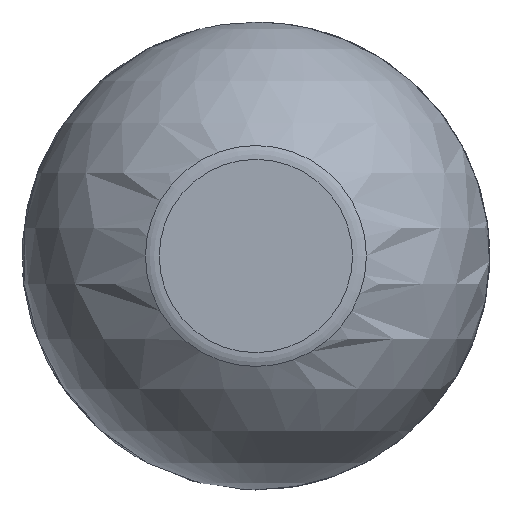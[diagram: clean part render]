
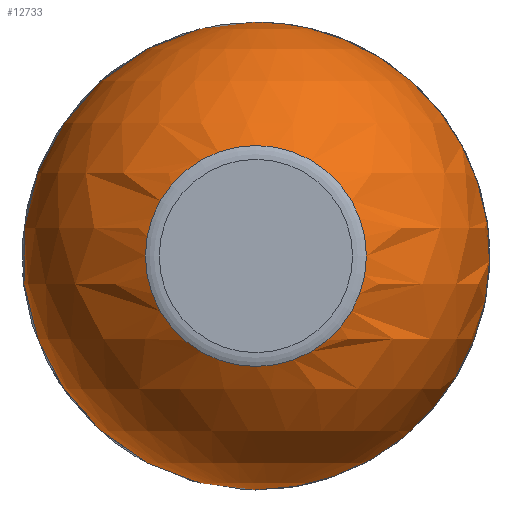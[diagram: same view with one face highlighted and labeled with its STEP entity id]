
A CAD part, left-side view. The second image highlights one B-rep face of the part: STEP entity #12733.
In plain terms, the highlighted spherical face has radius 12.179 mm.
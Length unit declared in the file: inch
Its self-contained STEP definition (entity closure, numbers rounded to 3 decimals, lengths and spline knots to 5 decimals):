
#3004=SPHERICAL_SURFACE('',#13530,0.4795);
#3447=FACE_BOUND('',#4291,.T.);
#3448=FACE_BOUND('',#4292,.T.);
#4291=EDGE_LOOP('',(#8773));
#4292=EDGE_LOOP('',(#8774));
#5121=CIRCLE('',#13522,0.26464);
#5124=CIRCLE('',#13529,0.2265);
#5461=VERTEX_POINT('',#17106);
#5464=VERTEX_POINT('',#17116);
#6787=EDGE_CURVE('',#5461,#5461,#5121,.T.);
#6790=EDGE_CURVE('',#5464,#5464,#5124,.T.);
#8773=ORIENTED_EDGE('',*,*,#6787,.T.);
#8774=ORIENTED_EDGE('',*,*,#6790,.T.);
#12733=ADVANCED_FACE('',(#3447,#3448),#3004,.T.);
#13522=AXIS2_PLACEMENT_3D('',#17107,#14400,#14401);
#13529=AXIS2_PLACEMENT_3D('',#17117,#14414,#14415);
#13530=AXIS2_PLACEMENT_3D('',#17118,#14416,#14417);
#14400=DIRECTION('center_axis',(-1.,0.,0.));
#14401=DIRECTION('ref_axis',(0.,0.,-1.));
#14414=DIRECTION('center_axis',(1.,0.,0.));
#14415=DIRECTION('ref_axis',(0.,0.,-1.));
#14416=DIRECTION('center_axis',(0.,0.,1.));
#14417=DIRECTION('ref_axis',(1.,0.,0.));
#17106=CARTESIAN_POINT('',(-0.46231,0.14868,0.));
#17107=CARTESIAN_POINT('Origin',(-0.46231,0.41332,0.));
#17116=CARTESIAN_POINT('',(-1.2848,0.63982,0.));
#17117=CARTESIAN_POINT('Origin',(-1.2848,0.41332,0.));
#17118=CARTESIAN_POINT('Origin',(-0.86217,0.41332,0.));
